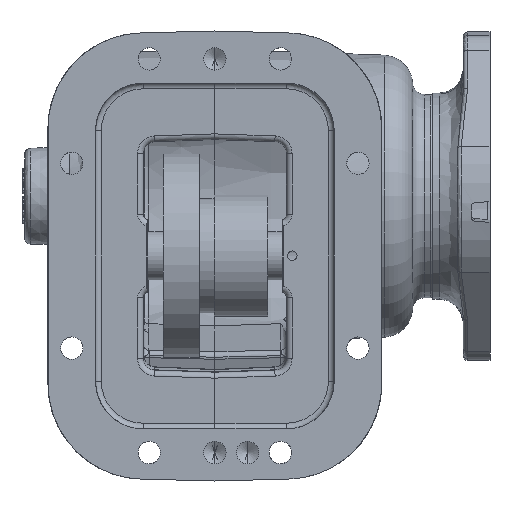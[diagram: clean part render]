
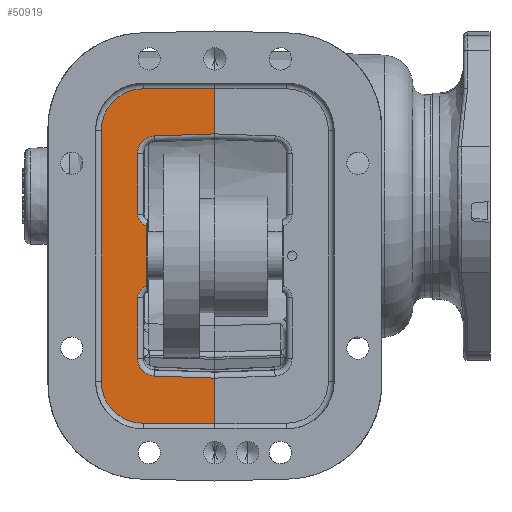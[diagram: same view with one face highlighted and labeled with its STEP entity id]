
A CAD part, front view. The second image highlights one B-rep face of the part: STEP entity #50919.
In plain terms, the highlighted planar face has unit normal (0, -1, 0).
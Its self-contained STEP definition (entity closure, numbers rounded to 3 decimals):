
#10937 = CARTESIAN_POINT ( 'NONE',  ( 22.99, -70.944, 49.71 ) ) ;
#10941 = CARTESIAN_POINT ( 'NONE',  ( -15.11, -70.944, 49.71 ) ) ;
#10945 = CARTESIAN_POINT ( 'NONE',  ( -37.462, -70.944, 27.358 ) ) ;
#10948 = CARTESIAN_POINT ( 'NONE',  ( -15.11, -70.944, -128.344 ) ) ;
#10950 = CARTESIAN_POINT ( 'NONE',  ( 22.99, -70.944, -128.344 ) ) ;
#10951 = CARTESIAN_POINT ( 'NONE',  ( -37.462, -70.944, -105.992 ) ) ;
#12780 = FACE_OUTER_BOUND ( 'NONE', #35195, .T. ) ;
#15254 = EDGE_CURVE ( 'NONE', #58220, #58228, #80410, .T. ) ;
#15260 = EDGE_CURVE ( 'NONE', #58228, #58217, #80425, .T. ) ;
#15266 = EDGE_CURVE ( 'NONE', #58217, #58214, #80438, .T. ) ;
#15272 = EDGE_CURVE ( 'NONE', #58214, #58188, #80455, .T. ) ;
#15279 = EDGE_CURVE ( 'NONE', #58188, #58177, #80463, .T. ) ;
#15287 = EDGE_CURVE ( 'NONE', #58177, #58160, #80472, .T. ) ;
#15292 = EDGE_CURVE ( 'NONE', #58160, #58171, #80476, .T. ) ;
#15298 = EDGE_CURVE ( 'NONE', #58171, #58157, #80486, .T. ) ;
#15304 = EDGE_CURVE ( 'NONE', #58157, #58133, #80492, .T. ) ;
#15371 = EDGE_CURVE ( 'NONE', #58060, #58054, #80541, .T. ) ;
#15375 = EDGE_CURVE ( 'NONE', #58054, #58058, #80540, .T. ) ;
#15385 = EDGE_CURVE ( 'NONE', #58045, #58060, #80548, .T. ) ;
#15399 = EDGE_CURVE ( 'NONE', #58031, #58045, #80558, .T. ) ;
#15412 = EDGE_CURVE ( 'NONE', #58018, #58031, #80564, .T. ) ;
#19170 = ORIENTED_EDGE ( 'NONE', *, *, #15292, .T. ) ;
#19173 = ORIENTED_EDGE ( 'NONE', *, *, #15298, .T. ) ;
#19175 = ORIENTED_EDGE ( 'NONE', *, *, #15304, .T. ) ;
#19177 = ORIENTED_EDGE ( 'NONE', *, *, #69003, .F. ) ;
#19178 = ORIENTED_EDGE ( 'NONE', *, *, #15412, .T. ) ;
#19180 = ORIENTED_EDGE ( 'NONE', *, *, #15399, .T. ) ;
#19182 = ORIENTED_EDGE ( 'NONE', *, *, #15385, .T. ) ;
#19185 = ORIENTED_EDGE ( 'NONE', *, *, #15371, .T. ) ;
#19187 = ORIENTED_EDGE ( 'NONE', *, *, #15375, .T. ) ;
#24189 = CARTESIAN_POINT ( 'NONE',  ( -9.088, -70.944, 24.589 ) ) ;
#24191 = CARTESIAN_POINT ( 'NONE',  ( -18.158, -70.944, -17.155 ) ) ;
#24199 = CARTESIAN_POINT ( 'NONE',  ( -18.158, -70.944, 15.197 ) ) ;
#24204 = CARTESIAN_POINT ( 'NONE',  ( -13.332, -70.944, -23.117 ) ) ;
#24212 = CARTESIAN_POINT ( 'NONE',  ( -13.332, -70.944, -55.516 ) ) ;
#24233 = CARTESIAN_POINT ( 'NONE',  ( -18.158, -70.944, -61.479 ) ) ;
#24236 = CARTESIAN_POINT ( 'NONE',  ( -18.158, -70.944, -93.83 ) ) ;
#24239 = CARTESIAN_POINT ( 'NONE',  ( 22.99, -70.944, -104.342 ) ) ;
#24245 = CARTESIAN_POINT ( 'NONE',  ( -9.088, -70.944, -103.222 ) ) ;
#35195 = EDGE_LOOP ( 'NONE', ( #71380, #71340, #71324, #71313, #71281, #71274, #53047, #19170, #19173, #19175, #19177, #19178, #19180, #19182, #19185, #19187 ) ) ;
#37099 = DIRECTION ( 'NONE',  ( -0.999, 0., 0.035 ) ) ;
#37102 = CARTESIAN_POINT ( 'NONE',  ( -9.088, -70.944, -103.222 ) ) ;
#37147 = CARTESIAN_POINT ( 'NONE',  ( -8.76, -70.944, -93.83 ) ) ;
#37149 = DIRECTION ( 'NONE',  ( 0., 1., 0. ) ) ;
#37151 = DIRECTION ( 'NONE',  ( 0., 0., 1. ) ) ;
#37169 = DIRECTION ( 'NONE',  ( 0., 0., 1. ) ) ;
#37177 = CARTESIAN_POINT ( 'NONE',  ( -18.158, -70.944, -61.479 ) ) ;
#37223 = CARTESIAN_POINT ( 'NONE',  ( -12.062, -70.944, -61.479 ) ) ;
#37225 = DIRECTION ( 'NONE',  ( 0., 1., 0. ) ) ;
#37227 = DIRECTION ( 'NONE',  ( 0., 0., 1. ) ) ;
#37254 = DIRECTION ( 'NONE',  ( 0., 0., 1. ) ) ;
#37264 = CARTESIAN_POINT ( 'NONE',  ( -13.332, -70.944, -23.117 ) ) ;
#37327 = CARTESIAN_POINT ( 'NONE',  ( -12.062, -70.944, -17.155 ) ) ;
#37329 = DIRECTION ( 'NONE',  ( 0., 1., 0. ) ) ;
#37331 = DIRECTION ( 'NONE',  ( 0., 0., 1. ) ) ;
#37342 = DIRECTION ( 'NONE',  ( 0., 0., 1. ) ) ;
#37350 = CARTESIAN_POINT ( 'NONE',  ( -18.158, -70.944, 15.197 ) ) ;
#37398 = CARTESIAN_POINT ( 'NONE',  ( -8.76, -70.944, 15.197 ) ) ;
#37399 = DIRECTION ( 'NONE',  ( 0., 1., 0. ) ) ;
#37401 = DIRECTION ( 'NONE',  ( 0., 0., 1. ) ) ;
#37421 = CARTESIAN_POINT ( 'NONE',  ( 22.884, -70.944, 25.706 ) ) ;
#37434 = DIRECTION ( 'NONE',  ( 0.999, 0., 0.035 ) ) ;
#38334 = DIRECTION ( 'NONE',  ( 1., 0., 0. ) ) ;
#38337 = CARTESIAN_POINT ( 'NONE',  ( -15.11, -70.944, -105.992 ) ) ;
#38339 = DIRECTION ( 'NONE',  ( 0., -1., 0. ) ) ;
#38341 = DIRECTION ( 'NONE',  ( 0., 0., 1. ) ) ;
#38343 = CARTESIAN_POINT ( 'NONE',  ( 22.99, -70.944, -128.344 ) ) ;
#38359 = CARTESIAN_POINT ( 'NONE',  ( -37.462, -70.944, -105.992 ) ) ;
#38370 = DIRECTION ( 'NONE',  ( 0., 0., -1. ) ) ;
#38407 = CARTESIAN_POINT ( 'NONE',  ( -15.11, -70.944, 27.358 ) ) ;
#38409 = DIRECTION ( 'NONE',  ( 0., -1., 0. ) ) ;
#38411 = DIRECTION ( 'NONE',  ( 0., 0., 1. ) ) ;
#38436 = CARTESIAN_POINT ( 'NONE',  ( -15.11, -70.944, 49.71 ) ) ;
#38447 = DIRECTION ( 'NONE',  ( -1., 0., 0. ) ) ;
#50919 = ADVANCED_FACE ( 'NONE', ( #12780 ), #85811, .F. ) ;
#53047 = ORIENTED_EDGE ( 'NONE', *, *, #15287, .T. ) ;
#58018 = VERTEX_POINT ( 'NONE', #10937 ) ;
#58031 = VERTEX_POINT ( 'NONE', #10941 ) ;
#58045 = VERTEX_POINT ( 'NONE', #10945 ) ;
#58054 = VERTEX_POINT ( 'NONE', #10948 ) ;
#58058 = VERTEX_POINT ( 'NONE', #10950 ) ;
#58060 = VERTEX_POINT ( 'NONE', #10951 ) ;
#58133 = VERTEX_POINT ( 'NONE', #94960 ) ;
#58157 = VERTEX_POINT ( 'NONE', #24189 ) ;
#58160 = VERTEX_POINT ( 'NONE', #24191 ) ;
#58171 = VERTEX_POINT ( 'NONE', #24199 ) ;
#58177 = VERTEX_POINT ( 'NONE', #24204 ) ;
#58188 = VERTEX_POINT ( 'NONE', #24212 ) ;
#58214 = VERTEX_POINT ( 'NONE', #24233 ) ;
#58217 = VERTEX_POINT ( 'NONE', #24236 ) ;
#58220 = VERTEX_POINT ( 'NONE', #24239 ) ;
#58228 = VERTEX_POINT ( 'NONE', #24245 ) ;
#69002 = EDGE_CURVE ( 'NONE', #58220, #58058, #88796, .T. ) ;
#69003 = EDGE_CURVE ( 'NONE', #58018, #58133, #88798, .T. ) ;
#71274 = ORIENTED_EDGE ( 'NONE', *, *, #15279, .T. ) ;
#71281 = ORIENTED_EDGE ( 'NONE', *, *, #15272, .T. ) ;
#71313 = ORIENTED_EDGE ( 'NONE', *, *, #15266, .T. ) ;
#71324 = ORIENTED_EDGE ( 'NONE', *, *, #15260, .T. ) ;
#71340 = ORIENTED_EDGE ( 'NONE', *, *, #15254, .T. ) ;
#71380 = ORIENTED_EDGE ( 'NONE', *, *, #69002, .F. ) ;
#77417 = AXIS2_PLACEMENT_3D ( 'NONE', #37147, #37149, #37151 ) ;
#77425 = AXIS2_PLACEMENT_3D ( 'NONE', #37223, #37225, #37227 ) ;
#77438 = AXIS2_PLACEMENT_3D ( 'NONE', #37327, #37329, #37331 ) ;
#77445 = AXIS2_PLACEMENT_3D ( 'NONE', #37398, #37399, #37401 ) ;
#77470 = AXIS2_PLACEMENT_3D ( 'NONE', #38337, #38339, #38341 ) ;
#77476 = AXIS2_PLACEMENT_3D ( 'NONE', #38407, #38409, #38411 ) ;
#80410 = LINE ( 'NONE', #37102, #80416 ) ;
#80416 = VECTOR ( 'NONE', #37099, 1000. ) ;
#80425 = CIRCLE ( 'NONE', #77417, 9.398 ) ;
#80438 = LINE ( 'NONE', #37177, #80450 ) ;
#80450 = VECTOR ( 'NONE', #37169, 1000. ) ;
#80455 = CIRCLE ( 'NONE', #77425, 6.096 ) ;
#80463 = LINE ( 'NONE', #37264, #80466 ) ;
#80466 = VECTOR ( 'NONE', #37254, 1000. ) ;
#80472 = CIRCLE ( 'NONE', #77438, 6.096 ) ;
#80476 = LINE ( 'NONE', #37350, #80482 ) ;
#80482 = VECTOR ( 'NONE', #37342, 1000. ) ;
#80486 = CIRCLE ( 'NONE', #77445, 9.398 ) ;
#80492 = LINE ( 'NONE', #37421, #80498 ) ;
#80498 = VECTOR ( 'NONE', #37434, 1000. ) ;
#80540 = LINE ( 'NONE', #38343, #80545 ) ;
#80541 = CIRCLE ( 'NONE', #77470, 22.352 ) ;
#80545 = VECTOR ( 'NONE', #38334, 1000. ) ;
#80548 = LINE ( 'NONE', #38359, #80552 ) ;
#80552 = VECTOR ( 'NONE', #38370, 1000. ) ;
#80558 = CIRCLE ( 'NONE', #77476, 22.352 ) ;
#80564 = LINE ( 'NONE', #38436, #80568 ) ;
#80568 = VECTOR ( 'NONE', #38447, 1000. ) ;
#85804 = CARTESIAN_POINT ( 'NONE',  ( -65.91, -70.944, 78.158 ) ) ;
#85811 = PLANE ( 'NONE',  #96501 ) ;
#85813 = DIRECTION ( 'NONE',  ( 0., 1., 0. ) ) ;
#85814 = DIRECTION ( 'NONE',  ( 0., 0., 1. ) ) ;
#87324 = CARTESIAN_POINT ( 'NONE',  ( 22.99, -70.944, 78.158 ) ) ;
#87325 = DIRECTION ( 'NONE',  ( 0., 0., -1. ) ) ;
#87326 = CARTESIAN_POINT ( 'NONE',  ( 22.99, -70.944, 78.158 ) ) ;
#87327 = DIRECTION ( 'NONE',  ( 0., 0., -1. ) ) ;
#88796 = LINE ( 'NONE', #87324, #88799 ) ;
#88798 = LINE ( 'NONE', #87326, #88801 ) ;
#88799 = VECTOR ( 'NONE', #87325, 1000. ) ;
#88801 = VECTOR ( 'NONE', #87327, 1000. ) ;
#94960 = CARTESIAN_POINT ( 'NONE',  ( 22.99, -70.944, 25.709 ) ) ;
#96501 = AXIS2_PLACEMENT_3D ( 'NONE', #85804, #85813, #85814 ) ;
